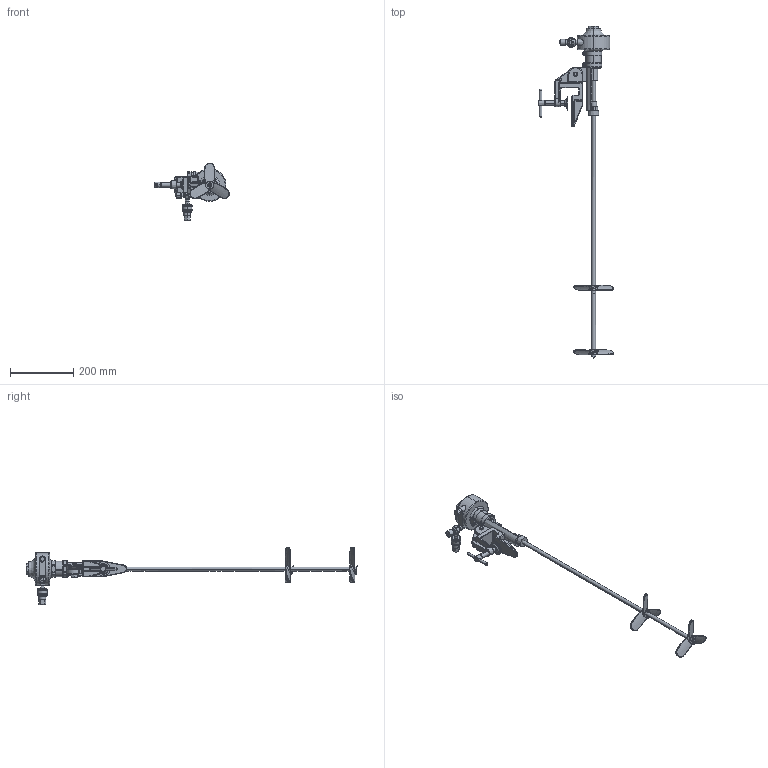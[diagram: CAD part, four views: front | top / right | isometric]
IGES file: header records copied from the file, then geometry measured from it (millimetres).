
Start section:  PTC IGES file: 225831-en-zae.igs
Global section: file name: 225831-en-zae.igs; native system: Creo Parametric by PTC Inc.; preprocessor: 2019030; author: qusrh3; organization: Unknown; date: 20200305.072739; units: inch
Bounding box: 235.02 x 1046.05 x 181.92 mm (x, y, z)
Surface area: 234474.4 mm2 (no closed solid volume)
Topology: 0 solids, 0 shells, 626 faces, 3396 edges, 3392 vertices
Faces by surface type: revolution 373, bspline 253
